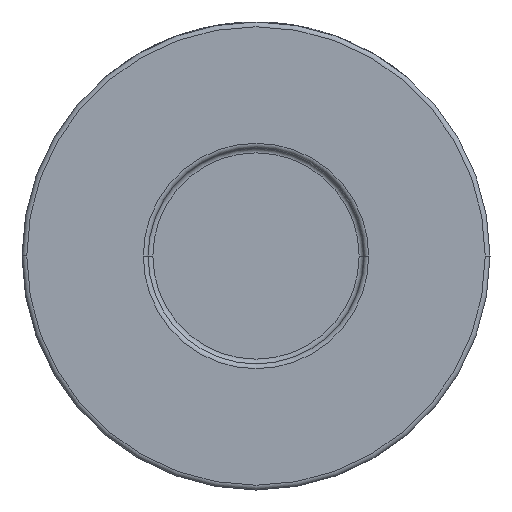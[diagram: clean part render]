
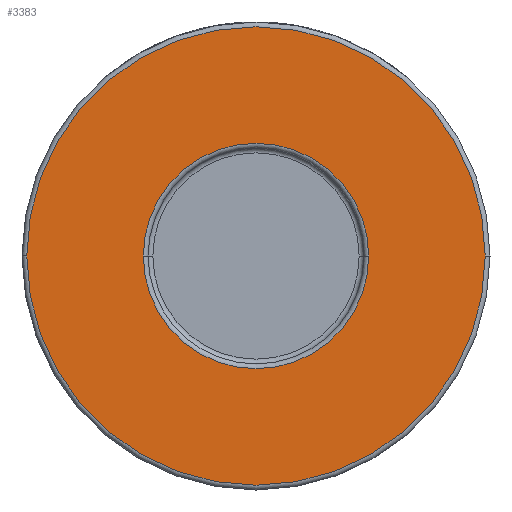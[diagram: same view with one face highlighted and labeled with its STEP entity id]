
A CAD part, front view. The second image highlights one B-rep face of the part: STEP entity #3383.
In plain terms, the highlighted planar face has unit normal (0, -1, 0).
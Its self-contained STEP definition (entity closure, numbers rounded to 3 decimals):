
#132 = DIRECTION ( 'NONE',  ( 1., 0., 0. ) ) ;
#241 = AXIS2_PLACEMENT_3D ( 'NONE', #3568, #1361, #2831 ) ;
#283 = DIRECTION ( 'NONE',  ( 0., -1., 0. ) ) ;
#327 = AXIS2_PLACEMENT_3D ( 'NONE', #1395, #741, #2885 ) ;
#643 = FACE_BOUND ( 'NONE', #1900, .T. ) ;
#741 = DIRECTION ( 'NONE',  ( 0., -1., 0. ) ) ;
#838 = DIRECTION ( 'NONE',  ( 0., -1., 0. ) ) ;
#851 = EDGE_LOOP ( 'NONE', ( #4568, #1513 ) ) ;
#1018 = CIRCLE ( 'NONE', #1180, 48. ) ;
#1177 = CARTESIAN_POINT ( 'NONE',  ( 0., -30., 0. ) ) ;
#1180 = AXIS2_PLACEMENT_3D ( 'NONE', #1177, #838, #132 ) ;
#1361 = DIRECTION ( 'NONE',  ( 0., 1., 0. ) ) ;
#1395 = CARTESIAN_POINT ( 'NONE',  ( 49., -30., 0. ) ) ;
#1513 = ORIENTED_EDGE ( 'NONE', *, *, #4649, .T. ) ;
#1701 = CIRCLE ( 'NONE', #3239, 23.6 ) ;
#1765 = VERTEX_POINT ( 'NONE', #2966 ) ;
#1797 = CARTESIAN_POINT ( 'NONE',  ( -48., -30., 0. ) ) ;
#1900 = EDGE_LOOP ( 'NONE', ( #2853, #4158 ) ) ;
#2022 = CARTESIAN_POINT ( 'NONE',  ( -23.6, -30., 0. ) ) ;
#2161 = FACE_OUTER_BOUND ( 'NONE', #851, .T. ) ;
#2313 = VERTEX_POINT ( 'NONE', #3960 ) ;
#2478 = PLANE ( 'NONE',  #327 ) ;
#2767 = DIRECTION ( 'NONE',  ( 0., 1., 0. ) ) ;
#2831 = DIRECTION ( 'NONE',  ( 1., 0., 0. ) ) ;
#2853 = ORIENTED_EDGE ( 'NONE', *, *, #4345, .T. ) ;
#2885 = DIRECTION ( 'NONE',  ( 1., 0., 0. ) ) ;
#2966 = CARTESIAN_POINT ( 'NONE',  ( 48., -30., 0. ) ) ;
#3125 = CARTESIAN_POINT ( 'NONE',  ( 0., -30., 0. ) ) ;
#3138 = EDGE_CURVE ( 'NONE', #1765, #4087, #4007, .T. ) ;
#3239 = AXIS2_PLACEMENT_3D ( 'NONE', #3125, #2767, #4597 ) ;
#3296 = VERTEX_POINT ( 'NONE', #2022 ) ;
#3383 = ADVANCED_FACE ( 'NONE', ( #643, #2161 ), #2478, .T. ) ;
#3401 = CIRCLE ( 'NONE', #241, 23.6 ) ;
#3568 = CARTESIAN_POINT ( 'NONE',  ( 0., -30., 0. ) ) ;
#3796 = AXIS2_PLACEMENT_3D ( 'NONE', #4022, #283, #4074 ) ;
#3878 = EDGE_CURVE ( 'NONE', #3296, #2313, #1701, .T. ) ;
#3960 = CARTESIAN_POINT ( 'NONE',  ( 23.6, -30., 0. ) ) ;
#4007 = CIRCLE ( 'NONE', #3796, 48. ) ;
#4022 = CARTESIAN_POINT ( 'NONE',  ( 0., -30., 0. ) ) ;
#4074 = DIRECTION ( 'NONE',  ( 1., 0., 0. ) ) ;
#4087 = VERTEX_POINT ( 'NONE', #1797 ) ;
#4158 = ORIENTED_EDGE ( 'NONE', *, *, #3878, .T. ) ;
#4345 = EDGE_CURVE ( 'NONE', #2313, #3296, #3401, .T. ) ;
#4568 = ORIENTED_EDGE ( 'NONE', *, *, #3138, .T. ) ;
#4597 = DIRECTION ( 'NONE',  ( 1., 0., 0. ) ) ;
#4649 = EDGE_CURVE ( 'NONE', #4087, #1765, #1018, .T. ) ;
